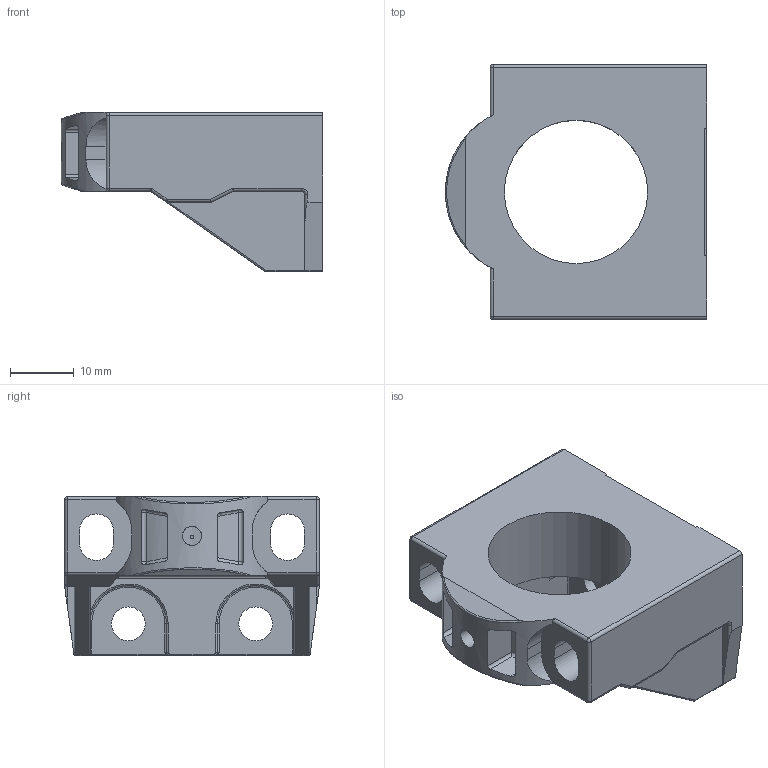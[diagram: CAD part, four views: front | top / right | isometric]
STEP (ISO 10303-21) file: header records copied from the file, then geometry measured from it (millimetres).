
FILE_DESCRIPTION((''),'2;1');
FILE_NAME('C:\TurckZip\BS4-CK40Bracket.stp','2006-12-05T08:10:11',('IKOROL'),(''),'Autodesk Inventor 11','Autodesk Inventor 11','');
FILE_SCHEMA(('AUTOMOTIVE_DESIGN { 1 0 10303 214 1 1 1 1 }'));
Length unit declared in the file: millimetre
Products named in the file (1): Part7
Bounding box: 41 x 40 x 25 mm (x, y, z)
Volume: 12033.9 mm3; surface area: 9208.7 mm2
Topology: 2 solids, 2 shells, 211 faces, 553 edges, 326 vertices
Faces by surface type: cylinder 97, plane 62, bspline 35, sphere 14, torus 3
Full cylindrical faces by diameter (mm): 0.5 x1, 3 x2, 5.3 x2, 22.5 x1
Entity records: 8960 total; most frequent: CARTESIAN_POINT 3948, ORIENTED_EDGE 1048, DIRECTION 1036, EDGE_CURVE 524, AXIS2_PLACEMENT_3D 385, VERTEX_POINT 325, VECTOR 266, LINE 266
